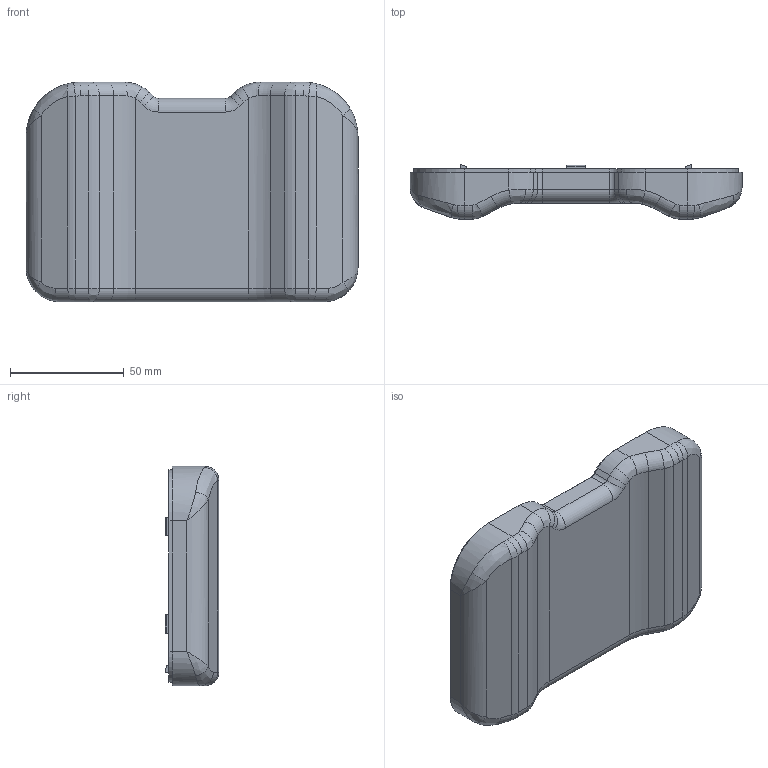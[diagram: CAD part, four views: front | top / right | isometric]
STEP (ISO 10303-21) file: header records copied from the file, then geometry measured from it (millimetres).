
FILE_DESCRIPTION((''),'2;1');
FILE_NAME('REMOTE-CASE-2','2026-04-19T',('Administrator'),(''),'PRO/ENGINEER BY PARAMETRIC TECHNOLOGY CORPORATION, 2013150','PRO/ENGINEER BY PARAMETRIC TECHNOLOGY CORPORATION, 2013150','');
FILE_SCHEMA(('CONFIG_CONTROL_DESIGN'));
Length unit declared in the file: millimetre
Products named in the file (1): REMOTE-CASE-2
Bounding box: 146 x 23.73 x 96.56 mm (x, y, z)
Volume: 62514 mm3; surface area: 46309.9 mm2
Topology: 1 solids, 1 shells, 301 faces, 762 edges, 478 vertices
Faces by surface type: plane 156, cylinder 89, bspline 30, torus 26
Entity records: 10171 total; most frequent: CARTESIAN_POINT 3006, ORIENTED_EDGE 1524, DIRECTION 1432, EDGE_CURVE 762, VECTOR 482, LINE 482, VERTEX_POINT 478, AXIS2_PLACEMENT_3D 475
